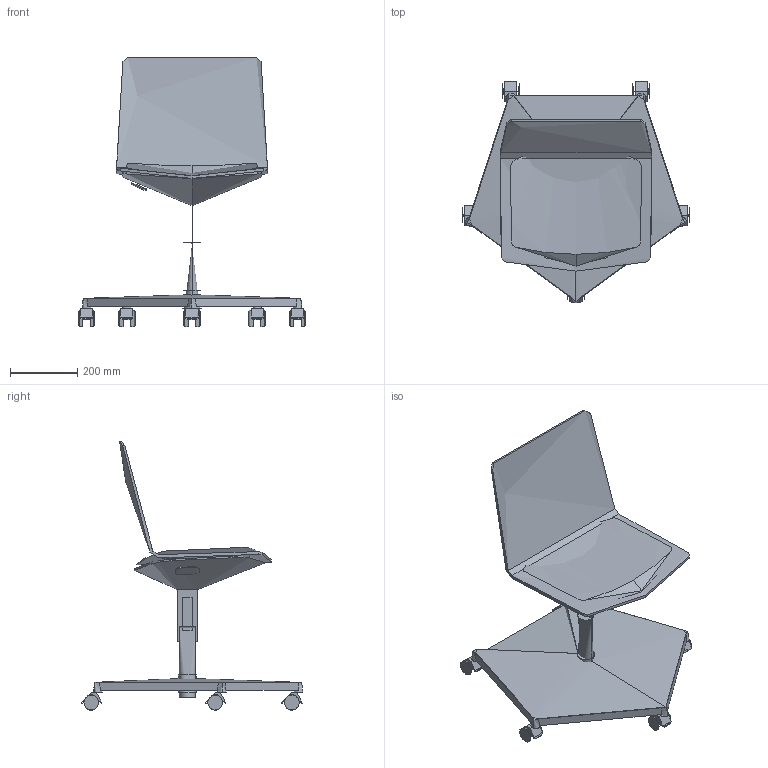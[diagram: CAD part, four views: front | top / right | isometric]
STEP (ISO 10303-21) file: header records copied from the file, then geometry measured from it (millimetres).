
FILE_DESCRIPTION(/* description */ (''),/* implementation_level */ '2;1');
FILE_NAME(/* name */ 'SKDF43~1',/* time_stamp */ '2016-02-19T13:01:42+01:00',/* author */ (''),/* organization */ (''),/* preprocessor_version */ 'ST-DEVELOPER v15',/* originating_system */ '',/* authorisation */ '');
FILE_SCHEMA (('CONFIG_CONTROL_DESIGN'));
Length unit declared in the file: millimetre
Products named in the file (1): Document
Bounding box: 677.7 x 659.52 x 803.23 mm (x, y, z)
Volume: 3166054.7 mm3; surface area: 1361563.9 mm2
Topology: 6 solids, 29 shells, 219 faces, 533 edges, 345 vertices
Faces by surface type: bspline 180, plane 39
Entity records: 13846 total; most frequent: CARTESIAN_POINT 10791, ORIENTED_EDGE 969, EDGE_CURVE 530, VERTEX_POINT 343, B_SPLINE_CURVE_WITH_KNOTS 229, ADVANCED_FACE 219, FACE_OUTER_BOUND 219, EDGE_LOOP 219
